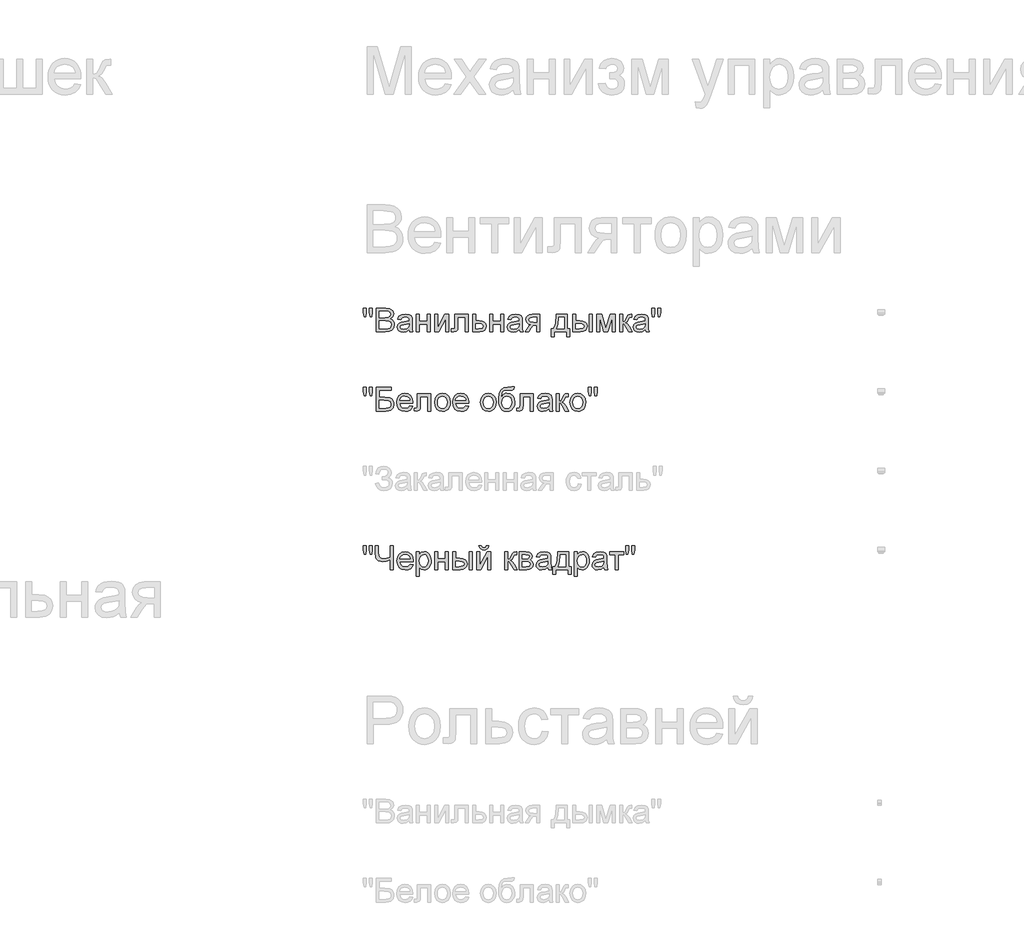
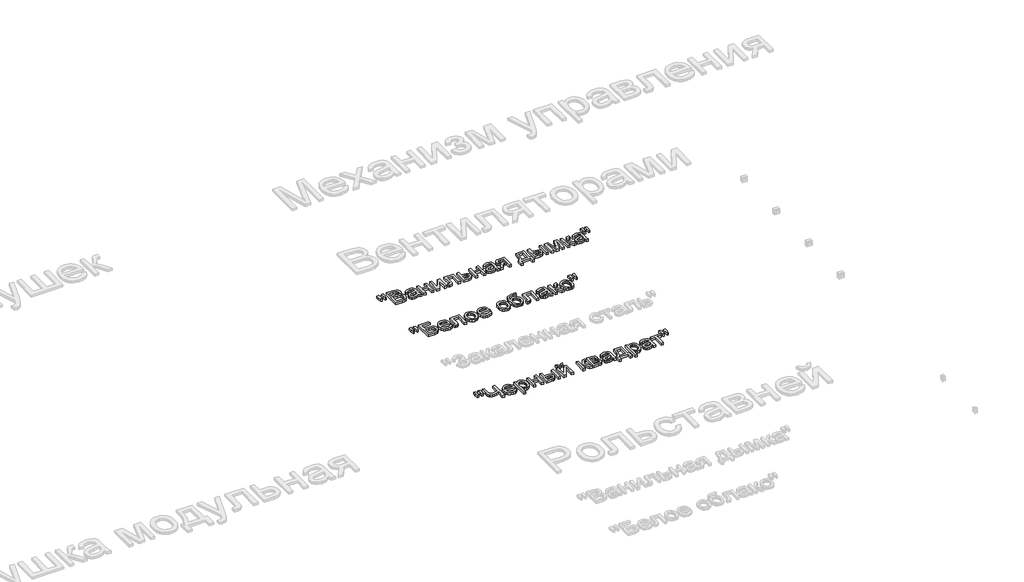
# One storey, part 71 of 168: 3 proxies.
"""IFC4 building model written with IfcOpenShell, lengths in millimetres."""

from ifc_helpers import new_model, si_unit, origin, origin_with_axes, place, context, project, spatial, polyline, outline, extrude, element, save

model = new_model("IFC4")

# Units and contexts
model_context = context("Model", 3, world=origin())
ifc_project = project(units=[si_unit("LENGTHUNIT", "METRE", prefix="MILLI")], contexts=[model_context])

# Site, building, storey
site = spatial("IfcSite", under=ifc_project)
building = spatial("IfcBuilding", under=site)
storey = spatial("IfcBuildingStorey", under=building, Name="Этаж 01", Elevation=0.0)

# Proxies
placement = place(None, origin())
element("IfcBuildingElementProxy", 1, Name="150", ObjectType="150", at=placement, inside=storey, context=model_context, shape_type="SweptSolid", body=[
    extrude(outline(polyline([(54389.7772739, -32370.3300622), (54385.178749, -32341.2305964), (54385.178749, -32316.1778325), (54404.0143071, -32316.1778325), (54404.0143071, -32341.2305964), (54399.8940288, -32370.3300622), (54389.7772739, -32370.3300622)])), origin_with_axes(), (0.0, 0.0, 1.0), 20.0),
    extrude(outline(polyline([(54427.3380256, -32370.3300622), (54422.8498653, -32341.2305964), (54422.8498653, -32316.1778325), (54441.6854234, -32316.1778325), (54441.6854234, -32341.2305964), (54437.2708395, -32370.3300622), (54427.3380256, -32370.3300622)])), origin_with_axes(), (0.0, 0.0, 1.0), 20.0),
    extrude(outline(polyline([(54467.5843159, -32466.8622977), (54467.5843159, -32316.1778325), (54525.0842718, -32316.1778325), (54553.2456385, -32320.6108106), (54562.7094028, -32326.2348066), (54569.8739047, -32334.2408385), (54575.8887753, -32353.517855), (54570.8303979, -32371.1210085), (54555.544901, -32384.4567308), (54566.2180773, -32390.030143), (54574.1045476, -32398.509823), (54578.9743855, -32409.3347507), (54580.5976648, -32421.9439061), (54576.1646868, -32442.19581), (54565.1834092, -32456.6167842), (54548.7942663, -32464.2687297), (54524.6428134, -32466.8622977), (54467.5843159, -32466.8622977)]), holes=[polyline([(54486.4198741, -32377.3933965), (54520.8168406, -32377.3933965), (54540.9031975, -32375.7747157), (54552.9881211, -32368.8033519), (54557.0532171, -32356.5344874), (54553.2640326, -32344.2472287), (54542.4115137, -32336.9815593), (54518.2048784, -32335.0133907), (54486.4198741, -32335.0133907), (54486.4198741, -32377.3933965)]), polyline([(54486.4198741, -32448.0267396), (54525.0474836, -32448.0267396), (54539.0269994, -32447.2909756), (54550.8544055, -32443.1890913), (54558.690292, -32434.819776), (54561.7621067, -32422.1278471), (54558.1568631, -32407.4861437), (54546.4766098, -32398.7489463), (54523.2080736, -32396.2289547), (54486.4198741, -32396.2289547), (54486.4198741, -32448.0267396)])]), origin_with_axes(), (0.0, 0.0, 1.0), 20.0),
    extrude(outline(polyline([(54674.7754556, -32452.7356291), (54656.5101145, -32465.5011344), (54636.3317871, -32469.2167425), (54620.5910362, -32466.9818594), (54608.9797608, -32460.27721), (54601.8198574, -32450.0960758), (54599.433223, -32437.4317381), (54603.0384665, -32422.5325173), (54612.5114279, -32411.7167867), (54625.6999974, -32405.5363691), (54641.9971698, -32402.7036778), (54674.665091, -32396.2289547), (54674.7754556, -32392.0350999), (54673.4786716, -32383.6289963), (54669.5883195, -32378.1291605), (54660.8879103, -32374.0456704), (54648.7661985, -32372.684507), (54629.7099112, -32376.3081446), (54620.6232259, -32389.1656204), (54601.7876677, -32386.8111756), (54609.9362539, -32368.4170758), (54626.3437909, -32357.6381334), (54651.1942197, -32353.8489488), (54674.0212975, -32357.196675), (54686.9155614, -32365.6027786), (54692.6913088, -32378.3866779), (54693.6110137, -32394.8677913), (54693.6110137, -32418.3018744), (54694.5675069, -32451.0249778), (54698.3199033, -32466.8622977), (54679.4843451, -32466.8622977), (54674.7754556, -32452.7356291)]), holes=[polyline([(54674.7754556, -32415.0645128), (54644.3884028, -32420.8402601), (54628.1832009, -32423.8936807), (54620.8439551, -32428.8600876), (54618.2687811, -32436.1073629), (54623.8789816, -32446.2976942), (54640.3417008, -32450.3811843), (54659.3979882, -32445.8746299), (54671.6852468, -32434.9669288), (54674.665091, -32420.3988017), (54674.7754556, -32415.0645128)])]), origin_with_axes(), (0.0, 0.0, 1.0), 20.0),
    extrude(outline(polyline([(54719.5099062, -32356.2033936), (54738.3454644, -32356.2033936), (54738.3454644, -32398.5833994), (54787.7888045, -32398.5833994), (54787.7888045, -32356.2033936), (54806.6243627, -32356.2033936), (54806.6243627, -32466.8622977), (54787.7888045, -32466.8622977), (54787.7888045, -32417.4189576), (54738.3454644, -32417.4189576), (54738.3454644, -32466.8622977), (54719.5099062, -32466.8622977), (54719.5099062, -32356.2033936)])), origin_with_axes(), (0.0, 0.0, 1.0), 20.0),
    extrude(outline(polyline([(54834.8776999, -32356.2033936), (54853.713258, -32356.2033936), (54853.713258, -32440.5955233), (54899.992813, -32356.2033936), (54924.3466011, -32356.2033936), (54924.3466011, -32466.8622977), (54905.511043, -32466.8622977), (54905.511043, -32382.9852028), (54859.5257936, -32466.8622977), (54834.8776999, -32466.8622977), (54834.8776999, -32356.2033936)])), origin_with_axes(), (0.0, 0.0, 1.0), 20.0),
    extrude(outline(polyline([(54962.0177174, -32356.2033936), (55046.7777291, -32356.2033936), (55046.7777291, -32466.7519331), (55027.942171, -32466.7519331), (55027.942171, -32375.0389517), (54980.8532756, -32375.0389517), (54980.8532756, -32427.830018), (54979.5840827, -32452.1838061), (54972.6127189, -32462.4661079), (54956.1316055, -32466.8622977), (54940.8277145, -32465.9058045), (54940.8277145, -32448.0267396), (54949.2522122, -32448.0267396), (54957.7686804, -32446.8679113), (54961.1715888, -32443.1890913), (54962.0177174, -32426.7631603), (54962.0177174, -32356.2033936)])), origin_with_axes(), (0.0, 0.0, 1.0), 20.0),
    extrude(outline(polyline([(55075.0310663, -32356.2033936), (55093.8666245, -32356.2033936), (55093.8666245, -32396.2289547), (55115.5716622, -32396.2289547), (55134.3888263, -32398.587998), (55148.3131598, -32405.6651278), (55156.9215985, -32416.8901272), (55159.791078, -32431.692779), (55157.3492613, -32445.1710556), (55150.0238111, -32456.5432078), (55137.3272837, -32464.2825252), (55118.7722356, -32466.8622977), (55075.0310663, -32466.8622977), (55075.0310663, -32356.2033936)]), holes=[polyline([(55093.8666245, -32448.0267396), (55111.4513839, -32448.0267396), (55134.1680971, -32444.0720081), (55139.2586642, -32439.0090322), (55140.9555199, -32431.7295672), (55135.9339306, -32420.1412843), (55127.8635194, -32416.3337057), (55113.695464, -32415.0645128), (55093.8666245, -32415.0645128), (55093.8666245, -32448.0267396)])]), origin_with_axes(), (0.0, 0.0, 1.0), 20.0),
    extrude(outline(polyline([(55183.3355257, -32356.2033936), (55202.1710839, -32356.2033936), (55202.1710839, -32398.5833994), (55251.614424, -32398.5833994), (55251.614424, -32356.2033936), (55270.4499822, -32356.2033936), (55270.4499822, -32466.8622977), (55251.614424, -32466.8622977), (55251.614424, -32417.4189576), (55202.1710839, -32417.4189576), (55202.1710839, -32466.8622977), (55183.3355257, -32466.8622977), (55183.3355257, -32356.2033936)])), origin_with_axes(), (0.0, 0.0, 1.0), 20.0),
    extrude(outline(polyline([(55369.3366625, -32452.7356291), (55351.0713214, -32465.5011344), (55330.892994, -32469.2167425), (55315.1522431, -32466.9818594), (55303.5409676, -32460.27721), (55296.3810643, -32450.0960758), (55293.9944299, -32437.4317381), (55297.5996734, -32422.5325173), (55307.0726348, -32411.7167867), (55320.2612043, -32405.5363691), (55336.5583767, -32402.7036778), (55369.2262979, -32396.2289547), (55369.3366625, -32392.0350999), (55368.0398785, -32383.6289963), (55364.1495264, -32378.1291605), (55355.4491172, -32374.0456704), (55343.3274054, -32372.684507), (55324.2711181, -32376.3081446), (55315.1844328, -32389.1656204), (55296.3488746, -32386.8111756), (55304.4974608, -32368.4170758), (55320.9049978, -32357.6381334), (55345.7554266, -32353.8489488), (55368.5825044, -32357.196675), (55381.4767683, -32365.6027786), (55387.2525157, -32378.3866779), (55388.1722206, -32394.8677913), (55388.1722206, -32418.3018744), (55389.1287138, -32451.0249778), (55392.8811102, -32466.8622977), (55374.045552, -32466.8622977), (55369.3366625, -32452.7356291)]), holes=[polyline([(55369.3366625, -32415.0645128), (55338.9496097, -32420.8402601), (55322.7444078, -32423.8936807), (55315.405162, -32428.8600876), (55312.829988, -32436.1073629), (55318.4401885, -32446.2976942), (55334.9029077, -32450.3811843), (55353.9591951, -32445.8746299), (55366.2464537, -32434.9669288), (55369.2262979, -32420.3988017), (55369.3366625, -32415.0645128)])]), origin_with_axes(), (0.0, 0.0, 1.0), 20.0),
    extrude(outline(polyline([(55498.8311248, -32356.2033936), (55498.8311248, -32466.8622977), (55479.9955666, -32466.8622977), (55479.9955666, -32424.4822919), (55469.731659, -32424.4822919), (55455.7521432, -32426.8735249), (55442.6187559, -32442.949968), (55427.6091705, -32466.8622977), (55405.8305564, -32466.8622977), (55424.739691, -32436.6223977), (55433.0906122, -32425.7698789), (55440.7793459, -32420.9506247), (55427.9034761, -32417.0050903), (55418.853579, -32409.5094947), (55413.500896, -32399.5398926), (55411.7166683, -32388.172339), (55414.1538865, -32375.278075), (55421.4655412, -32365.0693497), (55433.3941149, -32358.4198826), (55449.6820902, -32356.2033936), (55498.8311248, -32356.2033936)]), holes=[polyline([(55479.9955666, -32375.0389517), (55455.163532, -32375.0389517), (55442.3382459, -32376.1288021), (55435.0587809, -32379.3983534), (55430.5522265, -32389.6070787), (55432.212294, -32396.7853762), (55437.1924965, -32401.7655787), (55460.7185501, -32405.6467337), (55479.9955666, -32405.6467337), (55479.9955666, -32375.0389517)])]), origin_with_axes(), (0.0, 0.0, 1.0), 20.0),
    extrude(outline(polyline([(55602.4266946, -32356.2033936), (55673.0600377, -32356.2033936), (55673.0600377, -32448.0267396), (55687.1867063, -32448.0267396), (55687.1867063, -32497.4700797), (55668.3511482, -32497.4700797), (55668.3511482, -32466.8622977), (55590.6544708, -32466.8622977), (55590.6544708, -32497.4700797), (55571.8189126, -32497.4700797), (55571.8189126, -32448.0267396), (55583.5911365, -32448.0267396), (55592.1489914, -32432.5619002), (55598.1408694, -32412.1030628), (55602.4266946, -32356.2033936)]), holes=[polyline([(55618.907808, -32375.0389517), (55614.4932241, -32417.9523865), (55604.7811394, -32448.0267396), (55654.2244796, -32448.0267396), (55654.2244796, -32375.0389517), (55618.907808, -32375.0389517)])]), origin_with_axes(), (0.0, 0.0, 1.0), 20.0),
    extrude(outline(polyline([(55811.9722791, -32356.2033936), (55830.8078372, -32356.2033936), (55830.8078372, -32466.8622977), (55811.9722791, -32466.8622977), (55811.9722791, -32356.2033936)])), origin_with_axes(), (0.0, 0.0, 1.0), 20.0),
    extrude(outline(polyline([(55708.3767092, -32356.2033936), (55727.2122674, -32356.2033936), (55727.2122674, -32396.2289547), (55750.4991977, -32396.2289547), (55770.6269413, -32398.587998), (55785.5399577, -32405.6651278), (55794.7691973, -32416.8901272), (55797.8456105, -32431.692779), (55795.265838, -32445.1710556), (55787.5265205, -32456.5432078), (55774.1218203, -32464.2825252), (55754.5458996, -32466.8622977), (55708.3767092, -32466.8622977), (55708.3767092, -32356.2033936)]), holes=[polyline([(55727.2122674, -32448.0267396), (55746.5628603, -32448.0267396), (55771.5420478, -32444.0720081), (55777.1430512, -32439.0090322), (55779.0100523, -32431.7295672), (55773.4734283, -32420.1412843), (55764.5936766, -32416.3337057), (55749.0276697, -32415.0645128), (55727.2122674, -32415.0645128), (55727.2122674, -32448.0267396)])]), origin_with_axes(), (0.0, 0.0, 1.0), 20.0),
    extrude(outline(polyline([(55859.0611745, -32356.2033936), (55891.4715782, -32356.2033936), (55916.4507657, -32444.789378), (55943.3797278, -32356.2033936), (55974.4289682, -32356.2033936), (55974.4289682, -32466.8622977), (55955.59341, -32466.8622977), (55955.59341, -32377.7612785), (55928.5172952, -32466.8622977), (55903.7956251, -32466.8622977), (55877.8967326, -32373.4938474), (55877.8967326, -32466.8622977), (55859.0611745, -32466.8622977), (55859.0611745, -32356.2033936)])), origin_with_axes(), (0.0, 0.0, 1.0), 20.0),
    extrude(outline(polyline([(56002.6823054, -32356.2033936), (56021.5178635, -32356.2033936), (56021.5178635, -32403.292289), (56034.136216, -32399.9077746), (56044.4737, -32380.1892997), (56053.0637446, -32363.1747574), (56060.6421137, -32357.6381334), (56074.4192944, -32356.2033936), (56078.024538, -32356.2033936), (56078.024538, -32375.1493163), (56072.9477665, -32375.0389517), (56063.7507166, -32377.0255145), (56057.2759935, -32389.4231377), (56049.6792303, -32402.8324365), (56039.0290465, -32409.3991301), (56050.9116349, -32416.7291788), (56062.5734942, -32432.1710256), (56082.7334275, -32466.8622977), (56061.3226954, -32466.8622977), (56041.5674323, -32432.9067896), (56031.6346184, -32418.5409977), (56021.5178635, -32415.0645128), (56021.5178635, -32466.8622977), (56002.6823054, -32466.8622977), (56002.6823054, -32356.2033936)])), origin_with_axes(), (0.0, 0.0, 1.0), 20.0),
    extrude(outline(polyline([(56165.1389945, -32452.7356291), (56146.8736534, -32465.5011344), (56126.695326, -32469.2167425), (56110.9545751, -32466.9818594), (56099.3432996, -32460.27721), (56092.1833963, -32450.0960758), (56089.7967618, -32437.4317381), (56093.4020054, -32422.5325173), (56102.8749668, -32411.7167867), (56116.0635363, -32405.5363691), (56132.3607087, -32402.7036778), (56165.0286299, -32396.2289547), (56165.1389945, -32392.0350999), (56163.8422104, -32383.6289963), (56159.9518583, -32378.1291605), (56151.2514491, -32374.0456704), (56139.1297374, -32372.684507), (56120.07345, -32376.3081446), (56110.9867648, -32389.1656204), (56092.1512066, -32386.8111756), (56100.2997928, -32368.4170758), (56116.7073298, -32357.6381334), (56141.5577586, -32353.8489488), (56164.3848364, -32357.196675), (56177.2791003, -32365.6027786), (56183.0548476, -32378.3866779), (56183.9745526, -32394.8677913), (56183.9745526, -32418.3018744), (56184.9310458, -32451.0249778), (56188.6834421, -32466.8622977), (56169.847884, -32466.8622977), (56165.1389945, -32452.7356291)]), holes=[polyline([(56165.1389945, -32415.0645128), (56134.7519417, -32420.8402601), (56118.5467398, -32423.8936807), (56111.207494, -32428.8600876), (56108.63232, -32436.1073629), (56114.2425204, -32446.2976942), (56130.7052397, -32450.3811843), (56149.7615271, -32445.8746299), (56162.0487857, -32434.9669288), (56165.0286299, -32420.3988017), (56165.1389945, -32415.0645128)])]), origin_with_axes(), (0.0, 0.0, 1.0), 20.0),
    extrude(outline(polyline([(56209.7630805, -32370.3300622), (56205.1645555, -32341.2305964), (56205.1645555, -32316.1778325), (56224.0001137, -32316.1778325), (56224.0001137, -32341.2305964), (56219.8798353, -32370.3300622), (56209.7630805, -32370.3300622)])), origin_with_axes(), (0.0, 0.0, 1.0), 20.0),
    extrude(outline(polyline([(56247.3238322, -32370.3300622), (56242.8356718, -32341.2305964), (56242.8356718, -32316.1778325), (56261.67123, -32316.1778325), (56261.67123, -32341.2305964), (56257.256646, -32370.3300622), (56247.3238322, -32370.3300622)])), origin_with_axes(), (0.0, 0.0, 1.0), 20.0),
])
element("IfcBuildingElementProxy", 2, Name="150", ObjectType="150", at=placement, inside=storey, context=model_context, shape_type="SweptSolid", body=[
    extrude(outline(polyline([(54389.7772739, -32870.3300622), (54385.178749, -32841.2305964), (54385.178749, -32816.1778325), (54404.0143071, -32816.1778325), (54404.0143071, -32841.2305964), (54399.8940288, -32870.3300622), (54389.7772739, -32870.3300622)])), origin_with_axes(), (0.0, 0.0, 1.0), 20.0),
    extrude(outline(polyline([(54427.3380256, -32870.3300622), (54422.8498653, -32841.2305964), (54422.8498653, -32816.1778325), (54441.6854234, -32816.1778325), (54441.6854234, -32841.2305964), (54437.2708395, -32870.3300622), (54427.3380256, -32870.3300622)])), origin_with_axes(), (0.0, 0.0, 1.0), 20.0),
    extrude(outline(polyline([(54467.5843159, -32816.1778325), (54561.7621067, -32816.1778325), (54561.7621067, -32835.0133907), (54486.4198741, -32835.0133907), (54486.4198741, -32879.7478413), (54521.6997574, -32879.7478413), (54552.785786, -32883.573814), (54563.1876494, -32889.101241), (54571.2902503, -32898.0315764), (54576.5049776, -32909.5278888), (54578.2432201, -32922.7532465), (54573.2952072, -32944.2191609), (54558.5247451, -32960.5347274), (54545.2534021, -32965.2804052), (54525.0842718, -32966.8622977), (54467.5843159, -32966.8622977), (54467.5843159, -32816.1778325)]), holes=[polyline([(54486.4198741, -32948.0267396), (54526.7765289, -32948.0267396), (54541.0411533, -32946.4724382), (54551.2406816, -32941.8095339), (54557.3659168, -32934.0380267), (54559.4076619, -32923.1579167), (54554.7355606, -32908.4058487), (54541.730932, -32900.533174), (54513.3488361, -32898.5833994), (54486.4198741, -32898.5833994), (54486.4198741, -32948.0267396)])]), origin_with_axes(), (0.0, 0.0, 1.0), 20.0),
    extrude(outline(polyline([(54679.2636159, -32933.900071), (54697.7312921, -32936.2545157), (54691.0772265, -32950.1696522), (54680.4592324, -32960.5715156), (54666.1164331, -32967.0554358), (54648.2879519, -32969.2167425), (54626.1874411, -32965.4873388), (54609.1820959, -32954.2991276), (54598.338774, -32936.3786759), (54594.7243334, -32912.4525506), (54598.3755622, -32887.7216835), (54609.3292486, -32869.2264162), (54626.1046676, -32857.6933157), (54647.2210942, -32853.8489488), (54667.6799316, -32857.6841186), (54684.0276878, -32869.189628), (54694.7468494, -32887.6481071), (54698.3199033, -32912.342186), (54698.2095387, -32917.4189576), (54613.5598916, -32917.4189576), (54616.8202458, -32931.518035), (54624.3940164, -32941.8831103), (54635.3247101, -32948.2566658), (54648.6558339, -32950.3811843), (54667.1235101, -32946.444847), (54679.2636159, -32933.900071)]), holes=[polyline([(54613.5598916, -32898.5833994), (54679.4843451, -32898.5833994), (54676.9367623, -32888.6321915), (54671.9427642, -32881.5136749), (54660.9614867, -32874.8917989), (54647.1475178, -32872.684507), (54634.4509904, -32874.445742), (54623.952558, -32879.7294472), (54616.6546989, -32887.9654053), (54613.5598916, -32898.5833994)])]), origin_with_axes(), (0.0, 0.0, 1.0), 20.0),
    extrude(outline(polyline([(54726.5732405, -32856.2033936), (54811.3332522, -32856.2033936), (54811.3332522, -32966.7519331), (54792.497694, -32966.7519331), (54792.497694, -32875.0389517), (54745.4087987, -32875.0389517), (54745.4087987, -32927.830018), (54744.1396058, -32952.1838061), (54737.168242, -32962.4661079), (54720.6871286, -32966.8622977), (54705.3832376, -32965.9058045), (54705.3832376, -32948.0267396), (54713.8077353, -32948.0267396), (54722.3242035, -32946.8679113), (54725.7271119, -32943.1890913), (54726.5732405, -32926.7631603), (54726.5732405, -32856.2033936)])), origin_with_axes(), (0.0, 0.0, 1.0), 20.0),
    extrude(outline(polyline([(54834.8776999, -32911.5328457), (54838.951993, -32884.852204), (54851.1748723, -32866.0994193), (54866.2764282, -32856.9115664), (54884.3578282, -32853.8489488), (54904.1452811, -32857.5783525), (54919.9504113, -32868.7665637), (54930.310888, -32886.5306656), (54933.7643802, -32909.9877413), (54932.2376699, -32929.0164375), (54927.6575391, -32943.501791), (54920.1573449, -32954.3497114), (54909.8704446, -32962.4661079), (54897.6521638, -32967.5290839), (54884.3578282, -32969.2167425), (54864.3312521, -32965.5011344), (54848.544516, -32954.3543099), (54838.2944039, -32936.2177275), (54834.8776999, -32911.5328457)]), holes=[polyline([(54853.713258, -32911.4960575), (54855.8929589, -32928.5427894), (54862.4320613, -32940.6874938), (54872.2729047, -32947.9577617), (54884.3578282, -32950.3811843), (54896.3875695, -32947.9439661), (54906.2100188, -32940.6323115), (54912.7491212, -32928.3266587), (54914.928822, -32910.9074463), (54912.7353256, -32894.357355), (54906.1548365, -32882.3781975), (54896.3185916, -32875.1079296), (54884.3578282, -32872.684507), (54872.2729047, -32875.0987326), (54862.4320613, -32882.3414093), (54855.8929589, -32894.4585226), (54853.713258, -32911.4960575)])]), origin_with_axes(), (0.0, 0.0, 1.0), 20.0),
    extrude(outline(polyline([(55032.4303313, -32933.900071), (55050.8980075, -32936.2545157), (55044.2439419, -32950.1696522), (55033.6259478, -32960.5715156), (55019.2831485, -32967.0554358), (55001.4546673, -32969.2167425), (54979.3541564, -32965.4873388), (54962.3488112, -32954.2991276), (54951.5054894, -32936.3786759), (54947.8910488, -32912.4525506), (54951.5422776, -32887.7216835), (54962.495964, -32869.2264162), (54979.271383, -32857.6933157), (55000.3878095, -32853.8489488), (55020.846647, -32857.6841186), (55037.1944031, -32869.189628), (55047.9135648, -32887.6481071), (55051.4866187, -32912.342186), (55051.3762541, -32917.4189576), (54966.726607, -32917.4189576), (54969.9869611, -32931.518035), (54977.5607317, -32941.8831103), (54988.4914255, -32948.2566658), (55001.8225493, -32950.3811843), (55020.2902255, -32946.444847), (55032.4303313, -32933.900071)]), holes=[polyline([(54966.726607, -32898.5833994), (55032.6510605, -32898.5833994), (55030.1034777, -32888.6321915), (55025.1094796, -32881.5136749), (55014.128202, -32874.8917989), (55000.3142331, -32872.684507), (54987.6177058, -32874.445742), (54977.1192733, -32879.7294472), (54969.8214142, -32887.9654053), (54966.726607, -32898.5833994)])]), origin_with_axes(), (0.0, 0.0, 1.0), 20.0),
    extrude(outline(polyline([(55124.4744065, -32911.5328457), (55128.5486996, -32884.852204), (55140.7715789, -32866.0994193), (55155.8731348, -32856.9115664), (55173.9545348, -32853.8489488), (55193.7419877, -32857.5783525), (55209.5471179, -32868.7665637), (55219.9075946, -32886.5306656), (55223.3610868, -32909.9877413), (55221.8343765, -32929.0164375), (55217.2542457, -32943.501791), (55209.7540515, -32954.3497114), (55199.4671512, -32962.4661079), (55187.2488704, -32967.5290839), (55173.9545348, -32969.2167425), (55153.9279587, -32965.5011344), (55138.1412226, -32954.3543099), (55127.8911105, -32936.2177275), (55124.4744065, -32911.5328457)]), holes=[polyline([(55143.3099646, -32911.4960575), (55145.4896655, -32928.5427894), (55152.0287679, -32940.6874938), (55161.8696113, -32947.9577617), (55173.9545348, -32950.3811843), (55185.9842761, -32947.9439661), (55195.8067254, -32940.6323115), (55202.3458278, -32928.3266587), (55204.5255286, -32910.9074463), (55202.3320323, -32894.357355), (55195.7515431, -32882.3781975), (55185.9152982, -32875.1079296), (55173.9545348, -32872.684507), (55161.8696113, -32875.0987326), (55152.0287679, -32882.3414093), (55145.4896655, -32894.4585226), (55143.3099646, -32911.4960575)])]), origin_with_axes(), (0.0, 0.0, 1.0), 20.0),
    extrude(outline(polyline([(55322.2477671, -32813.8233877), (55338.7288805, -32813.8233877), (55333.8728382, -32828.5202734), (55324.2711181, -32833.8361683), (55301.204917, -32835.0133907), (55270.1372825, -32839.3543982), (55263.0095688, -32845.0013868), (55258.2179058, -32853.2603376), (55254.189598, -32877.8716431), (55270.5051645, -32859.8454253), (55280.4241828, -32855.3480679), (55291.5296205, -32853.8489488), (55311.1285338, -32857.661126), (55327.030233, -32869.0976575), (55337.5700522, -32887.0365033), (55341.0833253, -32910.3556233), (55339.3404843, -32928.3358558), (55334.1119614, -32942.766027), (55317.5756658, -32962.3189551), (55306.2816885, -32967.4922957), (55291.5296205, -32969.2167425), (55274.5288738, -32966.995655), (55261.7863612, -32960.3323923), (55252.4099688, -32950.2064404), (55245.5075829, -32937.597285), (55241.2585459, -32918.6099755), (55239.8422002, -32889.3495614), (55243.4152541, -32853.2097538), (55254.1344157, -32831.1690238), (55272.2663995, -32819.9256303), (55298.07792, -32816.1778325), (55319.0471937, -32815.7547682), (55322.2477671, -32813.8233877)]), holes=[polyline([(55322.2477671, -32909.7670121), (55320.206022, -32894.9459662), (55314.0807868, -32883.0771733), (55304.2399434, -32875.2826736), (55291.0513739, -32872.684507), (55277.3017843, -32875.4298264), (55267.102256, -32883.6657845), (55260.7838828, -32896.4910706), (55258.6777583, -32913.0043736), (55261.004612, -32929.011839), (55267.9851728, -32940.7610702), (55278.3778392, -32947.9761558), (55290.9410093, -32950.3811843), (55303.5685588, -32947.5990768), (55313.565752, -32939.252754), (55320.0772633, -32926.3171033), (55322.2477671, -32909.7670121)])]), origin_with_axes(), (0.0, 0.0, 1.0), 20.0),
    extrude(outline(polyline([(55374.045552, -32856.2033936), (55458.8055637, -32856.2033936), (55458.8055637, -32966.7519331), (55439.9700056, -32966.7519331), (55439.9700056, -32875.0389517), (55392.8811102, -32875.0389517), (55392.8811102, -32927.830018), (55391.6119173, -32952.1838061), (55384.6405535, -32962.4661079), (55368.1594401, -32966.8622977), (55352.8555491, -32965.9058045), (55352.8555491, -32948.0267396), (55361.2800468, -32948.0267396), (55369.796515, -32946.8679113), (55373.1994234, -32943.1890913), (55374.045552, -32926.7631603), (55374.045552, -32856.2033936)])), origin_with_axes(), (0.0, 0.0, 1.0), 20.0),
    extrude(outline(polyline([(55557.692244, -32952.7356291), (55539.426903, -32965.5011344), (55519.2485755, -32969.2167425), (55503.5078247, -32966.9818594), (55491.8965492, -32960.27721), (55484.7366458, -32950.0960758), (55482.3500114, -32937.4317381), (55485.955255, -32922.5325173), (55495.4282163, -32911.7167867), (55508.6167859, -32905.5363691), (55524.9139582, -32902.7036778), (55557.5818794, -32896.2289547), (55557.692244, -32892.0350999), (55556.39546, -32883.6289963), (55552.5051079, -32878.1291605), (55543.8046987, -32874.0456704), (55531.682987, -32872.684507), (55512.6266996, -32876.3081446), (55503.5400143, -32889.1656204), (55484.7044562, -32886.8111756), (55492.8530424, -32868.4170758), (55509.2605794, -32857.6381334), (55534.1110081, -32853.8489488), (55556.9380859, -32857.196675), (55569.8323499, -32865.6027786), (55575.6080972, -32878.3866779), (55576.5278022, -32894.8677913), (55576.5278022, -32918.3018744), (55577.4842954, -32951.0249778), (55581.2366917, -32966.8622977), (55562.4011336, -32966.8622977), (55557.692244, -32952.7356291)]), holes=[polyline([(55557.692244, -32915.0645128), (55527.3051912, -32920.8402601), (55511.0999893, -32923.8936807), (55503.7607435, -32928.8600876), (55501.1855696, -32936.1073629), (55506.79577, -32946.2976942), (55523.2584893, -32950.3811843), (55542.3147766, -32945.8746299), (55554.6020353, -32934.9669288), (55557.5818794, -32920.3988017), (55557.692244, -32915.0645128)])]), origin_with_axes(), (0.0, 0.0, 1.0), 20.0),
    extrude(outline(polyline([(55602.4266946, -32856.2033936), (55621.2622528, -32856.2033936), (55621.2622528, -32903.292289), (55633.8806052, -32899.9077746), (55644.2180893, -32880.1892997), (55652.8081339, -32863.1747574), (55660.386503, -32857.6381334), (55674.1636837, -32856.2033936), (55677.7689272, -32856.2033936), (55677.7689272, -32875.1493163), (55672.6921557, -32875.0389517), (55663.4951058, -32877.0255145), (55657.0203827, -32889.4231377), (55649.4236195, -32902.8324365), (55638.7734358, -32909.3991301), (55650.6560242, -32916.7291788), (55662.3178834, -32932.1710256), (55682.4778168, -32966.8622977), (55661.0670847, -32966.8622977), (55641.3118215, -32932.9067896), (55631.3790077, -32918.5409977), (55621.2622528, -32915.0645128), (55621.2622528, -32966.8622977), (55602.4266946, -32966.8622977), (55602.4266946, -32856.2033936)])), origin_with_axes(), (0.0, 0.0, 1.0), 20.0),
    extrude(outline(polyline([(55689.5411511, -32911.5328457), (55693.6154442, -32884.852204), (55705.8383235, -32866.0994193), (55720.9398794, -32856.9115664), (55739.0212794, -32853.8489488), (55758.8087323, -32857.5783525), (55774.6138625, -32868.7665637), (55784.9743392, -32886.5306656), (55788.4278314, -32909.9877413), (55786.9011211, -32929.0164375), (55782.3209903, -32943.501791), (55774.8207961, -32954.3497114), (55764.5338958, -32962.4661079), (55752.315615, -32967.5290839), (55739.0212794, -32969.2167425), (55718.9947033, -32965.5011344), (55703.2079672, -32954.3543099), (55692.9578551, -32936.2177275), (55689.5411511, -32911.5328457)]), holes=[polyline([(55708.3767092, -32911.4960575), (55710.5564101, -32928.5427894), (55717.0955125, -32940.6874938), (55726.9363559, -32947.9577617), (55739.0212794, -32950.3811843), (55751.0510207, -32947.9439661), (55760.87347, -32940.6323115), (55767.4125724, -32928.3266587), (55769.5922732, -32910.9074463), (55767.3987768, -32894.357355), (55760.8182877, -32882.3781975), (55750.9820428, -32875.1079296), (55739.0212794, -32872.684507), (55726.9363559, -32875.0987326), (55717.0955125, -32882.3414093), (55710.5564101, -32894.4585226), (55708.3767092, -32911.4960575)])]), origin_with_axes(), (0.0, 0.0, 1.0), 20.0),
    extrude(outline(polyline([(55809.5074697, -32870.3300622), (55804.9089448, -32841.2305964), (55804.9089448, -32816.1778325), (55823.7445029, -32816.1778325), (55823.7445029, -32841.2305964), (55819.6242246, -32870.3300622), (55809.5074697, -32870.3300622)])), origin_with_axes(), (0.0, 0.0, 1.0), 20.0),
    extrude(outline(polyline([(55847.0682214, -32870.3300622), (55842.5800611, -32841.2305964), (55842.5800611, -32816.1778325), (55861.4156192, -32816.1778325), (55861.4156192, -32841.2305964), (55857.0010353, -32870.3300622), (55847.0682214, -32870.3300622)])), origin_with_axes(), (0.0, 0.0, 1.0), 20.0),
])
element("IfcBuildingElementProxy", 3, Name="150", ObjectType="150", at=placement, inside=storey, context=model_context, shape_type="SweptSolid", body=[
    extrude(outline(polyline([(54389.7772739, -33870.3300622), (54385.178749, -33841.2305964), (54385.178749, -33816.1778325), (54404.0143071, -33816.1778325), (54404.0143071, -33841.2305964), (54399.8940288, -33870.3300622), (54389.7772739, -33870.3300622)])), origin_with_axes(), (0.0, 0.0, 1.0), 20.0),
    extrude(outline(polyline([(54427.3380256, -33870.3300622), (54422.8498653, -33841.2305964), (54422.8498653, -33816.1778325), (54441.6854234, -33816.1778325), (54441.6854234, -33841.2305964), (54437.2708395, -33870.3300622), (54427.3380256, -33870.3300622)])), origin_with_axes(), (0.0, 0.0, 1.0), 20.0),
    extrude(outline(polyline([(54573.5343305, -33966.8622977), (54554.6987724, -33966.8622977), (54554.6987724, -33906.5296505), (54529.7195849, -33914.6966308), (54508.0513354, -33917.4189576), (54493.3682452, -33915.556555), (54480.515368, -33909.9693472), (54470.554963, -33901.5172583), (54464.5492894, -33891.0602126), (54460.5209816, -33861.0594359), (54460.5209816, -33816.1778325), (54479.3565398, -33816.1778325), (54479.3565398, -33858.5210502), (54481.619014, -33878.8879171), (54488.4064368, -33890.8394834), (54498.3668419, -33896.6474204), (54510.1482628, -33898.5833994), (54531.8808916, -33896.2473488), (54554.6987724, -33889.2391968), (54554.6987724, -33816.1778325), (54573.5343305, -33816.1778325), (54573.5343305, -33966.8622977)])), origin_with_axes(), (0.0, 0.0, 1.0), 20.0),
    extrude(outline(polyline([(54681.6180607, -33933.900071), (54700.0857369, -33936.2545157), (54693.4316713, -33950.1696522), (54682.8136772, -33960.5715156), (54668.4708779, -33967.0554358), (54650.6423967, -33969.2167425), (54628.5418858, -33965.4873388), (54611.5365406, -33954.2991276), (54600.6932188, -33936.3786759), (54597.0787782, -33912.4525506), (54600.730007, -33887.7216835), (54611.6836934, -33869.2264162), (54628.4591124, -33857.6933157), (54649.5755389, -33853.8489488), (54670.0343764, -33857.6841186), (54686.3821325, -33869.189628), (54697.1012942, -33887.6481071), (54700.6743481, -33912.342186), (54700.5639835, -33917.4189576), (54615.9143364, -33917.4189576), (54619.1746905, -33931.518035), (54626.7484611, -33941.8831103), (54637.6791549, -33948.2566658), (54651.0102787, -33950.3811843), (54669.4779549, -33946.444847), (54681.6180607, -33933.900071)]), holes=[polyline([(54615.9143364, -33898.5833994), (54681.8387899, -33898.5833994), (54679.2912071, -33888.6321915), (54674.297209, -33881.5136749), (54663.3159314, -33874.8917989), (54649.5019625, -33872.684507), (54636.8054352, -33874.445742), (54626.3070027, -33879.7294472), (54619.0091436, -33887.9654053), (54615.9143364, -33898.5833994)])]), origin_with_axes(), (0.0, 0.0, 1.0), 20.0),
    extrude(outline(polyline([(54719.5099062, -34009.2423036), (54719.5099062, -33856.2033936), (54738.3454644, -33856.2033936), (54738.3454644, -33874.6710697), (54751.368487, -33859.054479), (54768.9532464, -33853.8489488), (54781.6911604, -33855.6699647), (54792.8287878, -33861.1330123), (54801.897079, -33869.9069979), (54808.4269844, -33881.6608277), (54813.687697, -33910.6867171), (54812.2023734, -33926.7953499), (54807.7464027, -33941.2025286), (54800.4623392, -33953.1770875), (54790.4927372, -33961.9878613), (54778.8814617, -33967.4095222), (54766.672378, -33969.2167425), (54750.2832351, -33964.3790943), (54738.3454644, -33952.1470179), (54738.3454644, -34009.2423036), (54719.5099062, -34009.2423036)]), holes=[polyline([(54738.3454644, -33912.4157624), (54740.3826109, -33929.301546), (54746.4940506, -33941.1105581), (54755.511758, -33948.0635278), (54766.2677078, -33950.3811843), (54777.1984016, -33947.9807543), (54786.4460352, -33940.7794643), (54792.7506129, -33928.5381909), (54794.8521388, -33911.0178109), (54792.8011967, -33894.2239978), (54786.6483703, -33882.2494388), (54777.6444585, -33875.0757399), (54767.04026, -33872.684507), (54756.3946747, -33875.2274913), (54747.0458735, -33882.8564441), (54740.5205667, -33895.3322423), (54738.3454644, -33912.4157624)])]), origin_with_axes(), (0.0, 0.0, 1.0), 20.0),
    extrude(outline(polyline([(54834.8776999, -33856.2033936), (54853.713258, -33856.2033936), (54853.713258, -33898.5833994), (54903.1565982, -33898.5833994), (54903.1565982, -33856.2033936), (54921.9921564, -33856.2033936), (54921.9921564, -33966.8622977), (54903.1565982, -33966.8622977), (54903.1565982, -33917.4189576), (54853.713258, -33917.4189576), (54853.713258, -33966.8622977), (54834.8776999, -33966.8622977), (54834.8776999, -33856.2033936)])), origin_with_axes(), (0.0, 0.0, 1.0), 20.0),
    extrude(outline(polyline([(55053.8410634, -33856.2033936), (55072.6766216, -33856.2033936), (55072.6766216, -33966.8622977), (55053.8410634, -33966.8622977), (55053.8410634, -33856.2033936)])), origin_with_axes(), (0.0, 0.0, 1.0), 20.0),
    extrude(outline(polyline([(54950.2454936, -33856.2033936), (54969.0810517, -33856.2033936), (54969.0810517, -33896.2289547), (54992.367982, -33896.2289547), (55012.4957257, -33898.587998), (55027.4087421, -33905.6651278), (55036.6379816, -33916.8901272), (55039.7143948, -33931.692779), (55037.1346223, -33945.1710556), (55029.3953048, -33956.5432078), (55015.9906046, -33964.2825252), (54996.414684, -33966.8622977), (54950.2454936, -33966.8622977), (54950.2454936, -33856.2033936)]), holes=[polyline([(54969.0810517, -33948.0267396), (54988.4316447, -33948.0267396), (55013.4108322, -33944.0720081), (55019.0118355, -33939.0090322), (55020.8788367, -33931.7295672), (55015.3422126, -33920.1412843), (55006.462461, -33916.3337057), (54990.896454, -33915.0645128), (54969.0810517, -33915.0645128), (54969.0810517, -33948.0267396)])]), origin_with_axes(), (0.0, 0.0, 1.0), 20.0),
    extrude(outline(polyline([(55100.9299588, -33856.2033936), (55119.765517, -33856.2033936), (55119.765517, -33940.5955233), (55166.045072, -33856.2033936), (55190.39886, -33856.2033936), (55190.39886, -33966.8622977), (55171.5633019, -33966.8622977), (55171.5633019, -33882.9852028), (55125.5780525, -33966.8622977), (55100.9299588, -33966.8622977), (55100.9299588, -33856.2033936)])), origin_with_axes(), (0.0, 0.0, 1.0), 20.0),
    extrude(outline(polyline([(55162.1455228, -33816.1778325), (55176.2721914, -33816.1778325), (55173.2325664, -33828.2397634), (55167.1303238, -33837.1287121), (55158.2413751, -33842.6055553), (55146.8416318, -33844.4311697), (55134.4715997, -33842.6193509), (55124.8790767, -33837.1838944), (55118.3215801, -33828.3087413), (55115.0566274, -33816.1778325), (55129.183296, -33816.1778325), (55134.4807968, -33826.7912281), (55145.1493746, -33830.3045011), (55156.8480221, -33826.9015927), (55162.1455228, -33816.1778325)])), origin_with_axes(), (0.0, 0.0, 1.0), 20.0),
    extrude(outline(polyline([(55277.5133165, -33856.2033936), (55296.3488746, -33856.2033936), (55296.3488746, -33903.292289), (55308.9672271, -33899.9077746), (55319.3047111, -33880.1892997), (55327.8947557, -33863.1747574), (55335.4731248, -33857.6381334), (55349.2503055, -33856.2033936), (55352.8555491, -33856.2033936), (55352.8555491, -33875.1493163), (55347.7787776, -33875.0389517), (55338.5817277, -33877.0255145), (55332.1070046, -33889.4231377), (55324.5102414, -33902.8324365), (55313.8600576, -33909.3991301), (55325.7426461, -33916.7291788), (55337.4045053, -33932.1710256), (55357.5644386, -33966.8622977), (55336.1537065, -33966.8622977), (55316.3984434, -33932.9067896), (55306.4656295, -33918.5409977), (55296.3488746, -33915.0645128), (55296.3488746, -33966.8622977), (55277.5133165, -33966.8622977), (55277.5133165, -33856.2033936)])), origin_with_axes(), (0.0, 0.0, 1.0), 20.0),
    extrude(outline(polyline([(55369.3366625, -33856.2033936), (55410.8337515, -33856.2033936), (55433.5872529, -33858.7233853), (55446.3895464, -33867.9572233), (55451.7422294, -33884.0520606), (55448.5048678, -33897.1302655), (55438.755995, -33906.4560741), (55451.4111356, -33916.6647995), (55456.4511189, -33934.4151058), (55453.2597426, -33948.7717006), (55445.6721765, -33958.8792584), (55433.6608293, -33964.8665379), (55417.1981101, -33966.8622977), (55369.3366625, -33966.8622977), (55369.3366625, -33856.2033936)]), holes=[polyline([(55388.1722206, -33898.5833994), (55406.7870496, -33898.5833994), (55422.1461229, -33897.6269062), (55429.6141274, -33893.8009335), (55432.9066713, -33886.884752), (55431.4627344, -33881.2653545), (55427.1309239, -33877.6509139), (55407.3756608, -33875.0389517), (55388.1722206, -33875.0389517), (55388.1722206, -33898.5833994)]), polyline([(55388.1722206, -33948.0267396), (55411.2752099, -33948.0267396), (55431.7662371, -33944.6238311), (55436.0060771, -33939.9839195), (55437.6155608, -33932.8700014), (55434.3965933, -33923.8017102), (55426.0088838, -33918.5226036), (55409.4358, -33917.4189576), (55388.1722206, -33917.4189576), (55388.1722206, -33948.0267396)])]), origin_with_axes(), (0.0, 0.0, 1.0), 20.0),
    extrude(outline(polyline([(55550.6289097, -33952.7356291), (55532.3635686, -33965.5011344), (55512.1852412, -33969.2167425), (55496.4444903, -33966.9818594), (55484.8332149, -33960.27721), (55477.6733115, -33950.0960758), (55475.2866771, -33937.4317381), (55478.8919206, -33922.5325173), (55488.364882, -33911.7167867), (55501.5534516, -33905.5363691), (55517.8506239, -33902.7036778), (55550.5185451, -33896.2289547), (55550.6289097, -33892.0350999), (55549.3321257, -33883.6289963), (55545.4417736, -33878.1291605), (55536.7413644, -33874.0456704), (55524.6196526, -33872.684507), (55505.5633653, -33876.3081446), (55496.47668, -33889.1656204), (55477.6411219, -33886.8111756), (55485.7897081, -33868.4170758), (55502.197245, -33857.6381334), (55527.0476738, -33853.8489488), (55549.8747516, -33857.196675), (55562.7690155, -33865.6027786), (55568.5447629, -33878.3866779), (55569.4644679, -33894.8677913), (55569.4644679, -33918.3018744), (55570.420961, -33951.0249778), (55574.1733574, -33966.8622977), (55555.3377992, -33966.8622977), (55550.6289097, -33952.7356291)]), holes=[polyline([(55550.6289097, -33915.0645128), (55520.2418569, -33920.8402601), (55504.036655, -33923.8936807), (55496.6974092, -33928.8600876), (55494.1222352, -33936.1073629), (55499.7324357, -33946.2976942), (55516.195155, -33950.3811843), (55535.2514423, -33945.8746299), (55547.5387009, -33934.9669288), (55550.5185451, -33920.3988017), (55550.6289097, -33915.0645128)])]), origin_with_axes(), (0.0, 0.0, 1.0), 20.0),
    extrude(outline(polyline([(55611.8444737, -33856.2033936), (55682.4778168, -33856.2033936), (55682.4778168, -33948.0267396), (55696.6044854, -33948.0267396), (55696.6044854, -33997.4700797), (55677.7689272, -33997.4700797), (55677.7689272, -33966.8622977), (55600.0722499, -33966.8622977), (55600.0722499, -33997.4700797), (55581.2366917, -33997.4700797), (55581.2366917, -33948.0267396), (55593.0089156, -33948.0267396), (55601.5667705, -33932.5619002), (55607.5586485, -33912.1030628), (55611.8444737, -33856.2033936)]), holes=[polyline([(55628.3255871, -33875.0389517), (55623.9110031, -33917.9523865), (55614.1989185, -33948.0267396), (55663.6422586, -33948.0267396), (55663.6422586, -33875.0389517), (55628.3255871, -33875.0389517)])]), origin_with_axes(), (0.0, 0.0, 1.0), 20.0),
    extrude(outline(polyline([(55717.7944883, -34009.2423036), (55717.7944883, -33856.2033936), (55736.6300465, -33856.2033936), (55736.6300465, -33874.6710697), (55749.6530691, -33859.054479), (55767.2378285, -33853.8489488), (55779.9757426, -33855.6699647), (55791.11337, -33861.1330123), (55800.1816611, -33869.9069979), (55806.7115666, -33881.6608277), (55811.9722791, -33910.6867171), (55810.4869555, -33926.7953499), (55806.0309849, -33941.2025286), (55798.7469214, -33953.1770875), (55788.7773193, -33961.9878613), (55777.1660438, -33967.4095222), (55764.9569601, -33969.2167425), (55748.5678172, -33964.3790943), (55736.6300465, -33952.1470179), (55736.6300465, -34009.2423036), (55717.7944883, -34009.2423036)]), holes=[polyline([(55736.6300465, -33912.4157624), (55738.667193, -33929.301546), (55744.7786327, -33941.1105581), (55753.7963401, -33948.0635278), (55764.5522899, -33950.3811843), (55775.4829837, -33947.9807543), (55784.7306173, -33940.7794643), (55791.035195, -33928.5381909), (55793.1367209, -33911.0178109), (55791.0857788, -33894.2239978), (55784.9329524, -33882.2494388), (55775.9290406, -33875.0757399), (55765.3248421, -33872.684507), (55754.6792569, -33875.2274913), (55745.3304557, -33882.8564441), (55738.8051488, -33895.3322423), (55736.6300465, -33912.4157624)])]), origin_with_axes(), (0.0, 0.0, 1.0), 20.0),
    extrude(outline(polyline([(55903.7956251, -33952.7356291), (55885.530284, -33965.5011344), (55865.3519566, -33969.2167425), (55849.6112057, -33966.9818594), (55837.9999302, -33960.27721), (55830.8400269, -33950.0960758), (55828.4533925, -33937.4317381), (55832.058636, -33922.5325173), (55841.5315974, -33911.7167867), (55854.7201669, -33905.5363691), (55871.0173393, -33902.7036778), (55903.6852605, -33896.2289547), (55903.7956251, -33892.0350999), (55902.498841, -33883.6289963), (55898.6084889, -33878.1291605), (55889.9080798, -33874.0456704), (55877.786368, -33872.684507), (55858.7300807, -33876.3081446), (55849.6433954, -33889.1656204), (55830.8078372, -33886.8111756), (55838.9564234, -33868.4170758), (55855.3639604, -33857.6381334), (55880.2143892, -33853.8489488), (55903.041467, -33857.196675), (55915.9357309, -33865.6027786), (55921.7114782, -33878.3866779), (55922.6311832, -33894.8677913), (55922.6311832, -33918.3018744), (55923.5876764, -33951.0249778), (55927.3400728, -33966.8622977), (55908.5045146, -33966.8622977), (55903.7956251, -33952.7356291)]), holes=[polyline([(55903.7956251, -33915.0645128), (55873.4085723, -33920.8402601), (55857.2033704, -33923.8936807), (55849.8641246, -33928.8600876), (55847.2889506, -33936.1073629), (55852.899151, -33946.2976942), (55869.3618703, -33950.3811843), (55888.4181577, -33945.8746299), (55900.7054163, -33934.9669288), (55903.6852605, -33920.3988017), (55903.7956251, -33915.0645128)])]), origin_with_axes(), (0.0, 0.0, 1.0), 20.0),
    extrude(outline(polyline([(55939.1122966, -33856.2033936), (56028.5811978, -33856.2033936), (56028.5811978, -33875.0389517), (55993.2645263, -33875.0389517), (55993.2645263, -33966.8622977), (55974.4289682, -33966.8622977), (55974.4289682, -33875.0389517), (55939.1122966, -33875.0389517), (55939.1122966, -33856.2033936)])), origin_with_axes(), (0.0, 0.0, 1.0), 20.0),
    extrude(outline(polyline([(56044.9519466, -33870.3300622), (56040.3534217, -33841.2305964), (56040.3534217, -33816.1778325), (56059.1889798, -33816.1778325), (56059.1889798, -33841.2305964), (56055.0687015, -33870.3300622), (56044.9519466, -33870.3300622)])), origin_with_axes(), (0.0, 0.0, 1.0), 20.0),
    extrude(outline(polyline([(56082.5126983, -33870.3300622), (56078.024538, -33841.2305964), (56078.024538, -33816.1778325), (56096.8600961, -33816.1778325), (56096.8600961, -33841.2305964), (56092.4455122, -33870.3300622), (56082.5126983, -33870.3300622)])), origin_with_axes(), (0.0, 0.0, 1.0), 20.0),
])

save(model, "model.ifc")
